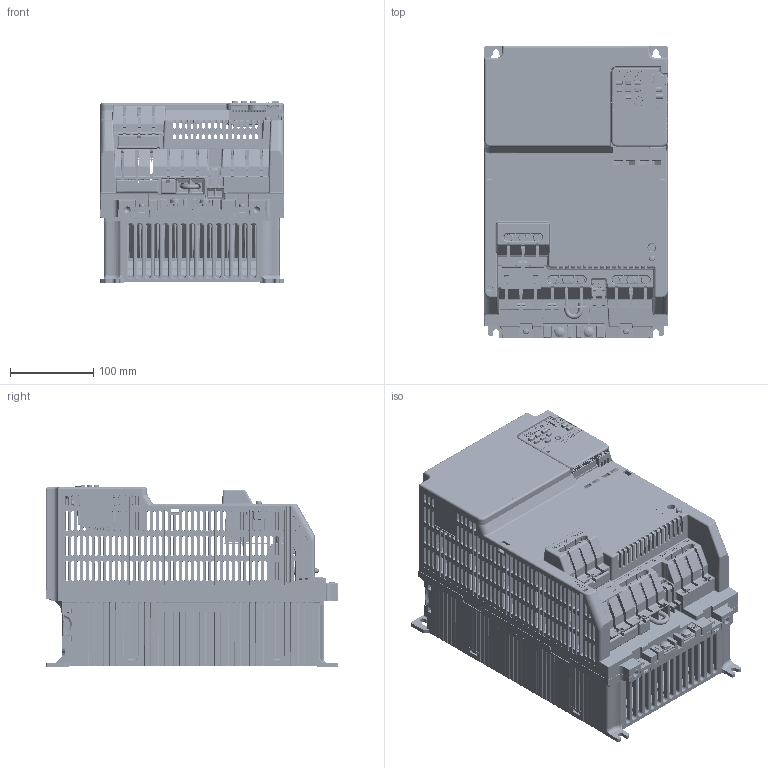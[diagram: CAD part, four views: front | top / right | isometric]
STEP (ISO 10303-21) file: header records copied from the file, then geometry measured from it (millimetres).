
FILE_DESCRIPTION((''),'2;1');
FILE_NAME('GA500_EMC_FRAME_V7-A_ASM','2019-03-12T',('anm'),('YASKAWA ELECTRIC CORCORATION'),'PRO/ENGINEER BY PARAMETRIC TECHNOLOGY CORPORATION, 2015440','PRO/ENGINEER BY PARAMETRIC TECHNOLOGY CORPORATION, 2015440','');
FILE_SCHEMA(('CONFIG_CONTROL_DESIGN'));
Products named in the file (57): 400-104-322_1_1_1; SCAT41094_1_1_1; 08025DE-24P-BA-01_2_1_1_1; 08025DE-24P-BA-01_1_1_1_1; 08025DE-24P-BA-01_3_1_1_1; 08025DE-24P-BA-01_ASM_1_ASM_1_A_ASM; 400-114-215_1_1_1; 400-114-214_1_1_1; 400-104-282-01B-2_1_1_1; MKDS10HV_2-ZB-10P16_1_1_1; MKDSP50_3-17P5_1_1_1; ETP761700_ASM_1_ASM_1_ASM_1_ASM; SCAT41285_M4X12_TOGARISAKIKARI_; 400-104-311-01A-1_1_1_1; ETX731480_ASM_1_ASM_1_ASM_1_ASM; ASSY-KTX731481_ASM_1_ASM_1_ASM__ASM; 400-113-380_1_1_1; HSR-M4-7P4_1_1_1; 400-113-380_ASM_1_ASM_1_ASM_1_ASM; 400-104-023-01F-5_1_1_1; 95003-2884_1_1_1; B12B-PASK-1_1_1_1; 1734753-1_AF1_1_1_1; DHB-PD20-S131N-4P9_AF1_1_1_1; KARI_SPTA1_9-3P5_AF0_1_1_1; KARI_SPTA1_8-3P5_AF0_1_1_1; SPTA1_11-3P5_AF0_1_1_1; SPTA1_3-5P0_AF0_1_1_1; KTC750050-SXXXX_ASM_1_ASM_1_ASM_ASM; F354371_1_1_1; F354373_1_1_1; F354374_1_1_1; F354372_1_1_1; V-GEM_PWB2_1_1_1; 55265-0811_AF0_1_1_1; SM10B-SURS-TF_1_1_1_1; V-GIM_PWB_ASM2_ASM_1_ASM_1_ASM__ASM; GA500_KEYPAD_20180227_ASM_1_ASM_ASM; 400-104-186_1_1_1; 400-104-251_1_1_1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
Assembly tree (67 placements, depth 7):
  GA500_EMC_FRAME_V7-A_ASM
    GA500_EMC_FRAME_V7-A_ASM_1_ASM
      GA500_EMC_FRAME_V7-A_ASM_1_ASM__ASM
        KIPR-GA50_Q_2070_ASM_1_ASM_1_AS_ASM
          400-104-322_1_1_1
          SCAT41094_1_1_1  x2
          08025DE-24P-BA-01_ASM_1_ASM_1_A_ASM  x2
            08025DE-24P-BA-01_2_1_1_1
            08025DE-24P-BA-01_1_1_1_1
            08025DE-24P-BA-01_3_1_1_1
          400-114-215_1_1_1
          400-114-214_1_1_1
          ETP761700_ASM_1_ASM_1_ASM_1_ASM
            400-104-282-01B-2_1_1_1
            MKDS10HV_2-ZB-10P16_1_1_1
            MKDSP50_3-17P5_1_1_1  x2
          SCAT41285_M4X12_TOGARISAKIKARI_  x5
          ASSY-KTX731481_ASM_1_ASM_1_ASM__ASM
            ETX731480_ASM_1_ASM_1_ASM_1_ASM
              400-104-311-01A-1_1_1_1
              MKDSP50_3-17P5_1_1_1
          400-113-380_ASM_1_ASM_1_ASM_1_ASM
            400-113-380_1_1_1
            HSR-M4-7P4_1_1_1
          KTC750050-SXXXX_ASM_1_ASM_1_ASM_ASM
            400-104-023-01F-5_1_1_1
            95003-2884_1_1_1
            B12B-PASK-1_1_1_1
            1734753-1_AF1_1_1_1
            DHB-PD20-S131N-4P9_AF1_1_1_1
            KARI_SPTA1_9-3P5_AF0_1_1_1
            KARI_SPTA1_8-3P5_AF0_1_1_1
            SPTA1_11-3P5_AF0_1_1_1
            SPTA1_3-5P0_AF0_1_1_1
          GA500_KEYPAD_20180227_ASM_1_ASM_ASM
            F354371_1_1_1
            F354373_1_1_1
            F354374_1_1_1
            F354372_1_1_1
            V-GIM_PWB_ASM2_ASM_1_ASM_1_ASM__ASM
              V-GEM_PWB2_1_1_1
              55265-0811_AF0_1_1_1
              SM10B-SURS-TF_1_1_1_1
          400-104-186_1_1_1
          400-104-251_1_1_1
          400-114-225_1_1_1  x2
          400-114-226_1_1_1
          MS15_M4X20_1_1_1
          400-114-227_1_1_1
          400-104-204_4_1_1_1  x2
          400-104-206_7_1_1_1
          400-104-204_1_1_1_1
          400-104-204_2_1_1_1
          400-104-204_3_1_1_1
          400-104-204_7_1_1_1
      400-122-025_ASM_1_ASM
        400-122-025_1_1
        AL_16_18_BU_1  x2
Bounding box: 220 x 350 x 218.75 mm (x, y, z)
Volume: 2531857.7 mm3; surface area: 1479170.3 mm2
Topology: 56 solids, 63 shells, 32942 faces, 90849 edges, 58053 vertices
Faces by surface type: plane 18874, cylinder 7429, bspline 2625, cone 1680, torus 1385, sphere 652, extrusion 297
Entity records: 1082322 total; most frequent: CARTESIAN_POINT 368358, ORIENTED_EDGE 159132, DIRECTION 132900, EDGE_CURVE 79580, VECTOR 52074, LINE 51858, VERTEX_POINT 51077, AXIS2_PLACEMENT_3D 40413
